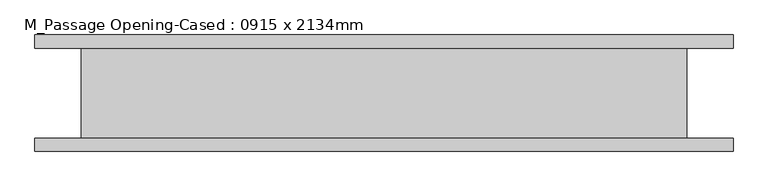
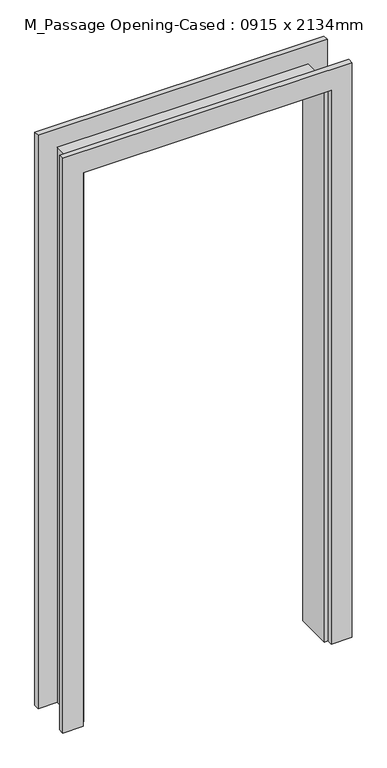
"""IFC4 building model written with IfcOpenShell, lengths in millimetres: proxy geometry, M_Passage Opening-Cased : 0915 x 2134mm."""

from ifc_helpers import new_model, si_unit, frame, origin, place, context, project, spatial, polyline, outline, extrude, faceted_brep, source, transform, mapped, element, save


def m_passage_opening_cased_0915_x_2134mm_5e741ba8(model_context):
    return source(origin(), model_context, "Body", "SolidModel", [
        extrude(outline(polyline([(0.0, -459.3386567), (2127.65, -459.3386567), (2127.65, 442.9613433), (0.0, 442.9613433), (0.0, 517.9613433), (2202.65, 517.9613433), (2202.65, -534.3386567), (0.0, -534.3386567), (0.0, -459.3386567)])), frame((0.0, 67.75, 0.0), z_axis=(0.0, 1.0, 0.0), x_axis=(0.0, 0.0, 1.0)), (0.0, 0.0, 1.0), 20.0),
        extrude(outline(polyline([(0.0, 517.9613433), (2208.05, 517.9613433), (2208.05, -534.3386567), (0.0, -534.3386567), (0.0, -459.3386567), (2127.65, -459.3386567), (2127.65, 442.9613433), (0.0, 442.9613433), (0.0, 517.9613433)])), frame((0.0, -87.75, 0.0), z_axis=(0.0, 1.0, 0.0), x_axis=(0.0, 0.0, 1.0)), (0.0, 0.0, 1.0), 20.0),
        faceted_brep([(429.3113433, -67.75, 0.0), (429.3113433, 67.75, 0.0), (448.3613433, 67.75, 0.0), (448.3613433, -67.75, 0.0), (448.3613433, -67.75, 2133.05), (429.3113433, -67.75, 2114.0), (448.3613433, 67.75, 2133.05), (429.3113433, 67.75, 2114.0), (-464.7386567, -67.75, 2133.05), (-445.6886567, -67.75, 2114.0), (-464.7386567, 67.75, 2133.05), (-445.6886567, 67.75, 2114.0), (-445.6886567, -67.75, 0.0), (-464.7386567, -67.75, 0.0), (-464.7386567, 67.75, 0.0), (-445.6886567, 67.75, 0.0)], [[[0, 1, 2, 3]], [[3, 4, 5, 0]], [[2, 6, 4, 3]], [[1, 7, 6, 2]], [[0, 5, 7, 1]], [[4, 8, 9, 5]], [[6, 10, 8, 4]], [[7, 11, 10, 6]], [[5, 9, 11, 7]], [[12, 13, 14, 15]], [[8, 13, 12, 9]], [[10, 14, 13, 8]], [[11, 15, 14, 10]], [[9, 12, 15, 11]]]),
    ])


if __name__ == "__main__":
    model = new_model("IFC4")
    model_context = context("Model", 3, world=origin())
    ifc_project = project(units=[si_unit("LENGTHUNIT", "METRE", prefix="MILLI")], contexts=[model_context])
    site = spatial("IfcSite", under=ifc_project)
    building = spatial("IfcBuilding", under=site)
    placement = place(None, origin())
    m_passage_opening_cased_0915_x_2134mm_shape = m_passage_opening_cased_0915_x_2134mm_5e741ba8(model_context)
    element("IfcBuildingElementProxy", 1, Name="M_Passage Opening-Cased : 0915 x 2134mm", ObjectType="M_Passage Opening-Cased : 0915 x 2134mm", at=placement, inside=building, context=model_context, shape_type="MappedRepresentation", body=[
        mapped(m_passage_opening_cased_0915_x_2134mm_shape, transform((0.0, 0.0, 0.0), x_axis=(1.0, 0.0, 0.0), y_axis=(0.0, 1.0, 0.0), z_axis=(0.0, 0.0, 1.0))),
    ])
    save(model, "model.ifc")
